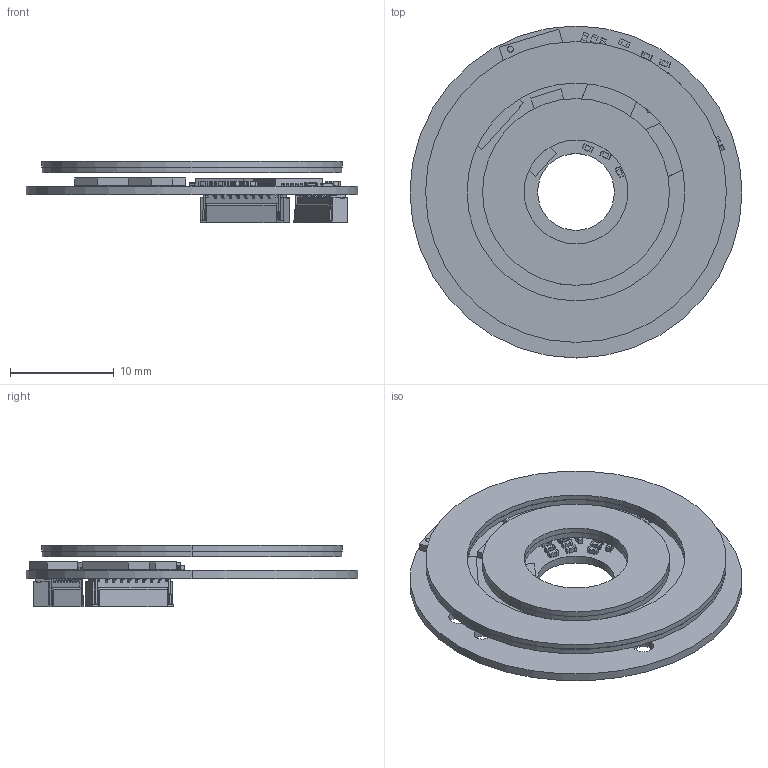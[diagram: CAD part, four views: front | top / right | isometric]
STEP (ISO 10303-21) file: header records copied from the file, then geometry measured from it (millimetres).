
FILE_DESCRIPTION((''),'2;1');
FILE_NAME('EAS-J034KM-HD----2¸öMCU_ASM','2026-09-02T',('guxinfeng'),(''),'PRO/ENGINEER BY PARAMETRIC TECHNOLOGY CORPORATION, 2012480','PRO/ENGINEER BY PARAMETRIC TECHNOLOGY CORPORATION, 2012480','');
FILE_SCHEMA(('CONFIG_CONTROL_DESIGN'));
Products named in the file (123): OPEN_CASCADE_STEP_TRANSLATO-194; BOARD_ASM_1_ASM; BBE-T6P1000A33_RGB8421504_1; U1_ASM_1_ASM; BBE_0_75MM_1; U3_ASM_1_ASM; U2_ASM_1_ASM; U4_ASM_1_ASM; OPEN_CASCADE_STEP_TRANSLAT-3005; OPEN_CASCADE_STEP_TRANSLAT-3478; TERMINAL-2991_ASM_1_ASM; OPEN_CASCADE_STEP_TRANSLAT-3974; MID_BODY-3964_ASM_1_ASM; 9548565296_ASM_1_ASM; C2_ASM_1_ASM; OPEN_CASCADE_STEP_TRANSLAT-4360; OPEN_CASCADE_STEP_TRANSLAT-4833; TERMINAL-4346_ASM_1_ASM; OPEN_CASCADE_STEP_TRANSLAT-5329; MID_BODY-5319_ASM_1_ASM; 9548570416_ASM_1_ASM; C5_ASM_1_ASM; C6_ASM_1_ASM; OPEN_CASCADE_STEP_TRANSLAT-5743; OPEN_CASCADE_STEP_TRANSLAT-6216; TERMINAL-5729_ASM_1_ASM; OPEN_CASCADE_STEP_TRANSLAT-6712; MID_BODY-6702_ASM_1_ASM; 9548562576_ASM_1_ASM; C10_ASM_1_ASM; C11_ASM_1_ASM; C12_ASM_1_ASM; C17_ASM_1_ASM; C18_ASM_1_ASM; C19_ASM_1_ASM; C20_ASM_1_ASM; EXTRUDED-7241_1; 9547991088_ASM_1_ASM; D2_ASM_1_ASM; MID_BODY-7468_1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
Assembly tree (148 placements, depth 8):
  EAS-J034KM-HD----2ｸCU_ASM
    EAS-J034KM-HD----2__MCU_ASM_1_ASM
      PCB_ASM_1_ASM
        BOARD_ASM_1_ASM
          OPEN_CASCADE_STEP_TRANSLATO-194
        U1_ASM_1_ASM
          BBE-T6P1000A33_RGB8421504_1
        U3_ASM_1_ASM
          BBE_0_75MM_1
        U2_ASM_1_ASM
          BBE_0_75MM_1
        U4_ASM_1_ASM
          BBE-T6P1000A33_RGB8421504_1
        C2_ASM_1_ASM
          9548565296_ASM_1_ASM
            TERMINAL-2991_ASM_1_ASM
              OPEN_CASCADE_STEP_TRANSLAT-3005
              OPEN_CASCADE_STEP_TRANSLAT-3478
            MID_BODY-3964_ASM_1_ASM
              OPEN_CASCADE_STEP_TRANSLAT-3974
        C5_ASM_1_ASM
          9548570416_ASM_1_ASM
            TERMINAL-4346_ASM_1_ASM
              OPEN_CASCADE_STEP_TRANSLAT-4360
              OPEN_CASCADE_STEP_TRANSLAT-4833
            MID_BODY-5319_ASM_1_ASM
              OPEN_CASCADE_STEP_TRANSLAT-5329
        C6_ASM_1_ASM
          9548570416_ASM_1_ASM
            TERMINAL-4346_ASM_1_ASM
              OPEN_CASCADE_STEP_TRANSLAT-4360
              OPEN_CASCADE_STEP_TRANSLAT-4833
            MID_BODY-5319_ASM_1_ASM
              OPEN_CASCADE_STEP_TRANSLAT-5329
        C10_ASM_1_ASM
          9548562576_ASM_1_ASM
            TERMINAL-5729_ASM_1_ASM
              OPEN_CASCADE_STEP_TRANSLAT-5743
              OPEN_CASCADE_STEP_TRANSLAT-6216
            MID_BODY-6702_ASM_1_ASM
              OPEN_CASCADE_STEP_TRANSLAT-6712
        C11_ASM_1_ASM
          9548562576_ASM_1_ASM
            TERMINAL-5729_ASM_1_ASM
              OPEN_CASCADE_STEP_TRANSLAT-5743
              OPEN_CASCADE_STEP_TRANSLAT-6216
            MID_BODY-6702_ASM_1_ASM
              OPEN_CASCADE_STEP_TRANSLAT-6712
        C12_ASM_1_ASM
          9548562576_ASM_1_ASM
            TERMINAL-5729_ASM_1_ASM
              OPEN_CASCADE_STEP_TRANSLAT-5743
              OPEN_CASCADE_STEP_TRANSLAT-6216
            MID_BODY-6702_ASM_1_ASM
              OPEN_CASCADE_STEP_TRANSLAT-6712
        C17_ASM_1_ASM
          9548570416_ASM_1_ASM
            TERMINAL-4346_ASM_1_ASM
              OPEN_CASCADE_STEP_TRANSLAT-4360
              OPEN_CASCADE_STEP_TRANSLAT-4833
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Bounding box: 32 x 32 x 5.9 mm (x, y, z)
Volume: 1258.7 mm3; surface area: 4624.3 mm2
Topology: 107 solids, 109 shells, 3612 faces, 10024 edges, 6352 vertices
Faces by surface type: plane 2434, cylinder 1010, sphere 160, cone 8
Entity records: 67419 total; most frequent: CARTESIAN_POINT 9861, DIRECTION 9443, ORIENTED_EDGE 9122, EDGE_CURVE 4561, PRESENTATION_STYLE_ASSIGNMENT 3652, STYLED_ITEM 3652, VECTOR 3597, LINE 3597
